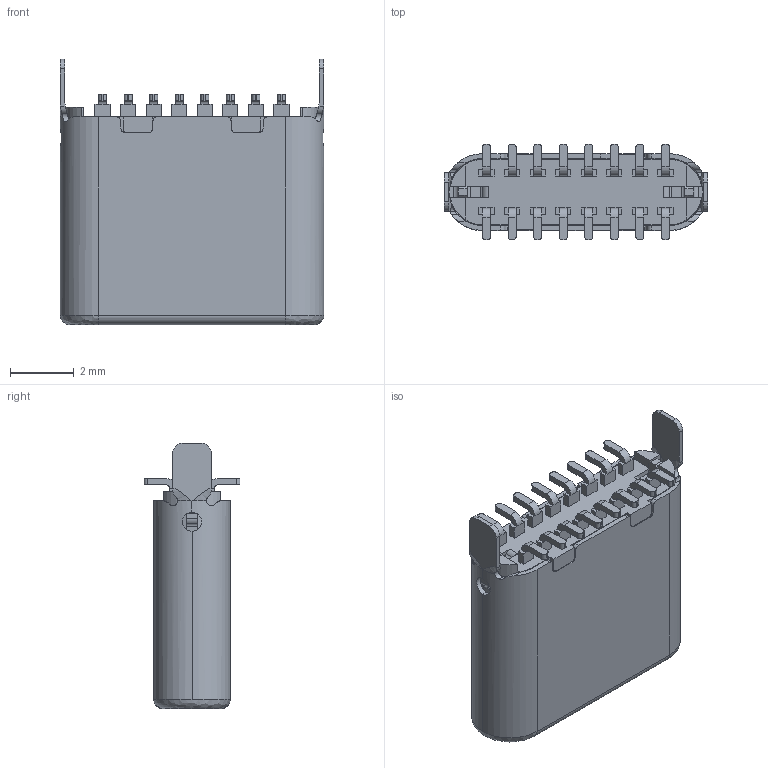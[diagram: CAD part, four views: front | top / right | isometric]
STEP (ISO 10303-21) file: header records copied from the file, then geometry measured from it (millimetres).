
FILE_DESCRIPTION (( 'STEP AP214' ), '1' );
FILE_NAME ('7.2--2.STEP', '2022-08-10T05:59:46', ( '微软用户' ), ( '微软中国' ), 'SwSTEP 2.0', 'SolidWorks 2012', '' );
FILE_SCHEMA (( 'AUTOMOTIVE_DESIGN' ));
Length unit declared in the file: millimetre
Products named in the file (1): 7.2--2
Bounding box: 8.25 x 3 x 8.3 mm (x, y, z)
Volume: 69.8 mm3; surface area: 547.1 mm2
Topology: 1 solids, 9 shells, 1424 faces, 3626 edges, 2227 vertices
Faces by surface type: plane 933, cylinder 356, bspline 119, cone 12, torus 4
Entity records: 43653 total; most frequent: CARTESIAN_POINT 10355, ORIENTED_EDGE 7236, DIRECTION 6326, EDGE_CURVE 3618, LINE 2546, VECTOR 2546, VERTEX_POINT 2227, AXIS2_PLACEMENT_3D 1890
